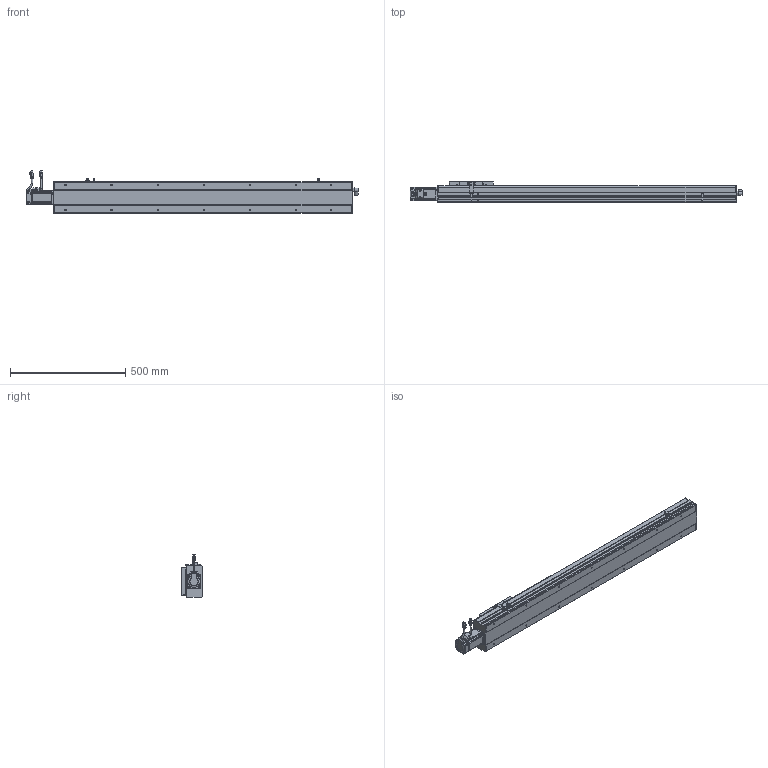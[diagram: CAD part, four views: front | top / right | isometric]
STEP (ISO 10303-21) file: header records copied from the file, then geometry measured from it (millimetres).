
FILE_DESCRIPTION(/* description */ ('STEP AP214'),/* implementation_level */ '2;1');
FILE_NAME(/* name */ 'PSC140-L05-S1000-BC-P40-C1-N(0)',/* time_stamp */ '2022-06-13T03:16:18+02:00',/* author */ ('License CC BY-ND 4.0'),/* organization */ ('CADENAS'),/* preprocessor_version */ 'ST-DEVELOPER v18.102',/* originating_system */ 'PARTsolutions',/* authorisation */ ' ');
FILE_SCHEMA (('AUTOMOTIVE_DESIGN {1 0 10303 214 3 1 1}'));
Length unit declared in the file: millimetre
Products named in the file (10): PSC140-L05-S1000-BC-P40-C1-N(0); P40-s2; P40-c2; P40-s1; P40-c1; P40-p1; PSC140-sensor; PSC140-BC-SLIDER; PSC140-S1000-BC-P40-C1_BODY1; PSC140-L05-S1000-BC-P40-C1-N(0)_dummy
Assembly tree (11 placements, depth 2):
  PSC140-L05-S1000-BC-P40-C1-N(0)
    P40-s2
    P40-c2
    P40-s1
    P40-c1
    P40-p1
    PSC140-sensor  x3
    PSC140-BC-SLIDER
    PSC140-S1000-BC-P40-C1_BODY1
    PSC140-L05-S1000-BC-P40-C1-N(0)_dummy
Bounding box: 1439 x 91 x 182.48 mm (x, y, z)
Volume: 13030616.1 mm3; surface area: 740352.4 mm2
Topology: 10 solids, 10 shells, 1256 faces, 3230 edges, 2133 vertices
Faces by surface type: plane 868, cylinder 319, cone 50, torus 19
Full cylindrical faces by diameter (mm): 1 x8, 2.6 x10, 2.8 x3, 3.3 x8, 4.5 x12, 4.6 x3, 4.917 x18, 5 x4, 5.5 x8, 6 x10, 6.08 x4, 7 x10, 9 x2, 10 x1, 11 x1, 13.74 x1, 14 x1, 16.4 x2, 16.5 x1, 19.98 x1, 31.98 x1, 35.5 x1, 50 x2
Entity records: 34598 total; most frequent: CARTESIAN_POINT 6037, DIRECTION 5827, ORIENTED_EDGE 5594, EDGE_CURVE 2797, LINE 2109, VECTOR 2109, VERTEX_POINT 1954, AXIS2_PLACEMENT_3D 1859
